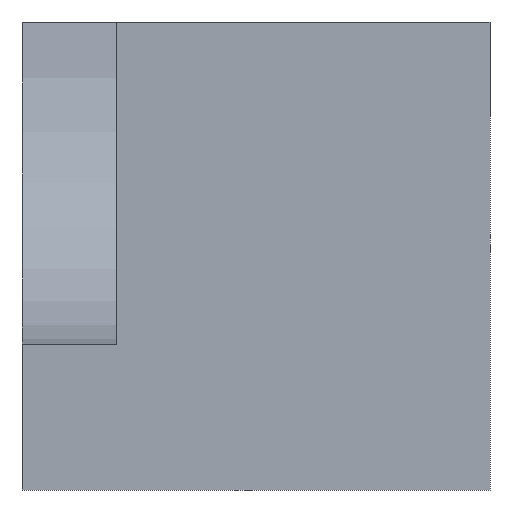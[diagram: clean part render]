
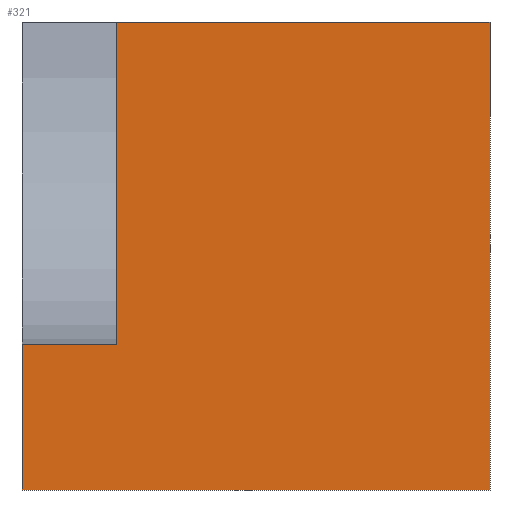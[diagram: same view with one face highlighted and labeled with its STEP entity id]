
A CAD part, front view. The second image highlights one B-rep face of the part: STEP entity #321.
In plain terms, the highlighted planar face has unit normal (0, -1, 0).
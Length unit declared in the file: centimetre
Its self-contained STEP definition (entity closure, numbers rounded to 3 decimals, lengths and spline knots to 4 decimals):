
#8 = DIRECTION ( 'NONE',  ( 0., 1., 0. ) ) ;
#19 = VECTOR ( 'NONE', #63, 100. ) ;
#26 = CARTESIAN_POINT ( 'NONE',  ( 0., 0., 1000. ) ) ;
#33 = DIRECTION ( 'NONE',  ( 0., 0., 1. ) ) ;
#36 = VERTEX_POINT ( 'NONE', #223 ) ;
#53 = VERTEX_POINT ( 'NONE', #86 ) ;
#58 = CARTESIAN_POINT ( 'NONE',  ( 0., 0., 311.2214 ) ) ;
#63 = DIRECTION ( 'NONE',  ( 0., 0., -1. ) ) ;
#84 = AXIS2_PLACEMENT_3D ( 'NONE', #358, #8, #150 ) ;
#86 = CARTESIAN_POINT ( 'NONE',  ( 1000., 0., 0. ) ) ;
#96 = DIRECTION ( 'NONE',  ( 1., 0., 0. ) ) ;
#107 = CARTESIAN_POINT ( 'NONE',  ( 0., 0., 0. ) ) ;
#121 = EDGE_CURVE ( 'NONE', #310, #220, #247, .T. ) ;
#140 = DIRECTION ( 'NONE',  ( 0., 0., -1. ) ) ;
#150 = DIRECTION ( 'NONE',  ( 0., 0., 1. ) ) ;
#165 = EDGE_CURVE ( 'NONE', #36, #53, #352, .T. ) ;
#173 = CARTESIAN_POINT ( 'NONE',  ( 1000., 0., 1000. ) ) ;
#184 = VECTOR ( 'NONE', #429, 100. ) ;
#204 = DIRECTION ( 'NONE',  ( 1., 0., 0. ) ) ;
#206 = LINE ( 'NONE', #26, #19 ) ;
#208 = PLANE ( 'NONE',  #84 ) ;
#214 = ORIENTED_EDGE ( 'NONE', *, *, #304, .F. ) ;
#220 = VERTEX_POINT ( 'NONE', #242 ) ;
#221 = VECTOR ( 'NONE', #96, 100. ) ;
#223 = CARTESIAN_POINT ( 'NONE',  ( 1000., 0., 1000. ) ) ;
#229 = ORIENTED_EDGE ( 'NONE', *, *, #165, .F. ) ;
#237 = LINE ( 'NONE', #376, #325 ) ;
#242 = CARTESIAN_POINT ( 'NONE',  ( 200.9359, 0., 1000. ) ) ;
#244 = EDGE_CURVE ( 'NONE', #270, #53, #312, .T. ) ;
#247 = LINE ( 'NONE', #409, #273 ) ;
#250 = ORIENTED_EDGE ( 'NONE', *, *, #396, .T. ) ;
#269 = VECTOR ( 'NONE', #140, 100. ) ;
#270 = VERTEX_POINT ( 'NONE', #275 ) ;
#272 = FACE_OUTER_BOUND ( 'NONE', #353, .T. ) ;
#273 = VECTOR ( 'NONE', #33, 100. ) ;
#274 = ORIENTED_EDGE ( 'NONE', *, *, #121, .F. ) ;
#275 = CARTESIAN_POINT ( 'NONE',  ( 0., 0., 0. ) ) ;
#300 = LINE ( 'NONE', #393, #184 ) ;
#304 = EDGE_CURVE ( 'NONE', #220, #36, #237, .T. ) ;
#305 = EDGE_CURVE ( 'NONE', #377, #270, #206, .T. ) ;
#310 = VERTEX_POINT ( 'NONE', #341 ) ;
#312 = LINE ( 'NONE', #107, #221 ) ;
#321 = ADVANCED_FACE ( 'NONE', ( #272 ), #208, .F. ) ;
#325 = VECTOR ( 'NONE', #204, 100. ) ;
#341 = CARTESIAN_POINT ( 'NONE',  ( 200.9359, 0., 311.2214 ) ) ;
#352 = LINE ( 'NONE', #173, #269 ) ;
#353 = EDGE_LOOP ( 'NONE', ( #274, #250, #385, #417, #229, #214 ) ) ;
#358 = CARTESIAN_POINT ( 'NONE',  ( 0., 0., 1000. ) ) ;
#376 = CARTESIAN_POINT ( 'NONE',  ( 0., 0., 1000. ) ) ;
#377 = VERTEX_POINT ( 'NONE', #58 ) ;
#385 = ORIENTED_EDGE ( 'NONE', *, *, #305, .T. ) ;
#393 = CARTESIAN_POINT ( 'NONE',  ( 200.9359, 0., 311.2214 ) ) ;
#396 = EDGE_CURVE ( 'NONE', #310, #377, #300, .T. ) ;
#409 = CARTESIAN_POINT ( 'NONE',  ( 200.9359, 0., 1000. ) ) ;
#417 = ORIENTED_EDGE ( 'NONE', *, *, #244, .T. ) ;
#429 = DIRECTION ( 'NONE',  ( -1., 0., 0. ) ) ;
